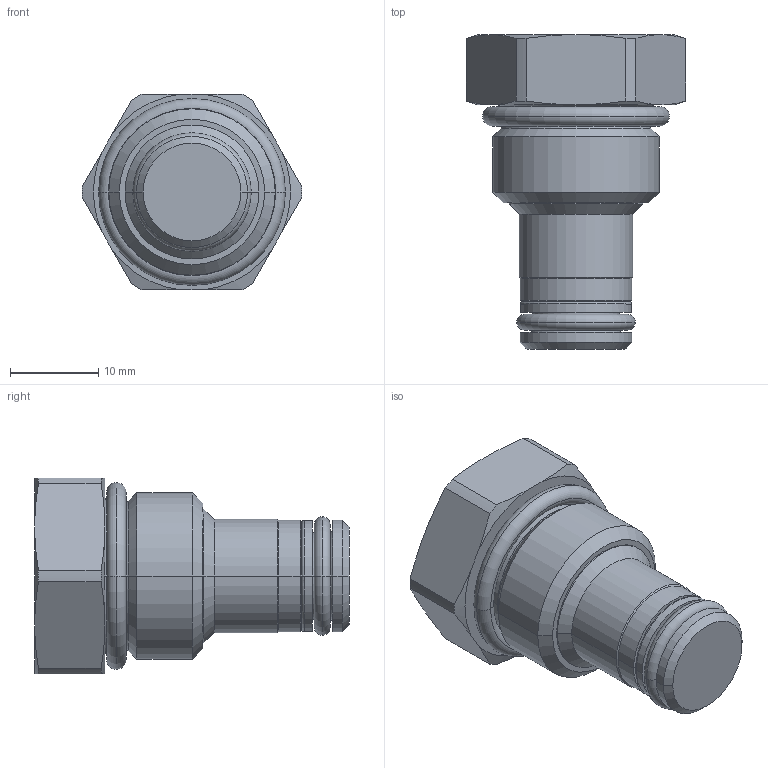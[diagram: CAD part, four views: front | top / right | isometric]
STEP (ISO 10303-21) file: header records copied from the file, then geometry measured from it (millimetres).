
FILE_DESCRIPTION((''),'2;1');
FILE_NAME('5200990_ASM_SW0001','2009-01-29T',('JCS'),(''),'PRO/ENGINEER BY PARAMETRIC TECHNOLOGY CORPORATION, 2008010','PRO/ENGINEER BY PARAMETRIC TECHNOLOGY CORPORATION, 2008010','');
FILE_SCHEMA(('CONFIG_CONTROL_DESIGN'));
Length unit declared in the file: inch
Products named in the file (1): 5200990_ASM_SW0001
Bounding box: 24.94 x 35.64 x 22.23 mm (x, y, z)
Volume: 8604.7 mm3; surface area: 3565.4 mm2
Topology: 4 solids, 4 shells, 91 faces, 226 edges, 140 vertices
Faces by surface type: torus 30, cone 26, cylinder 24, plane 11
Entity records: 2904 total; most frequent: CARTESIAN_POINT 613, DIRECTION 530, ORIENTED_EDGE 452, AXIS2_PLACEMENT_3D 237, EDGE_CURVE 226, CIRCLE 146, VERTEX_POINT 140, EDGE_LOOP 94
